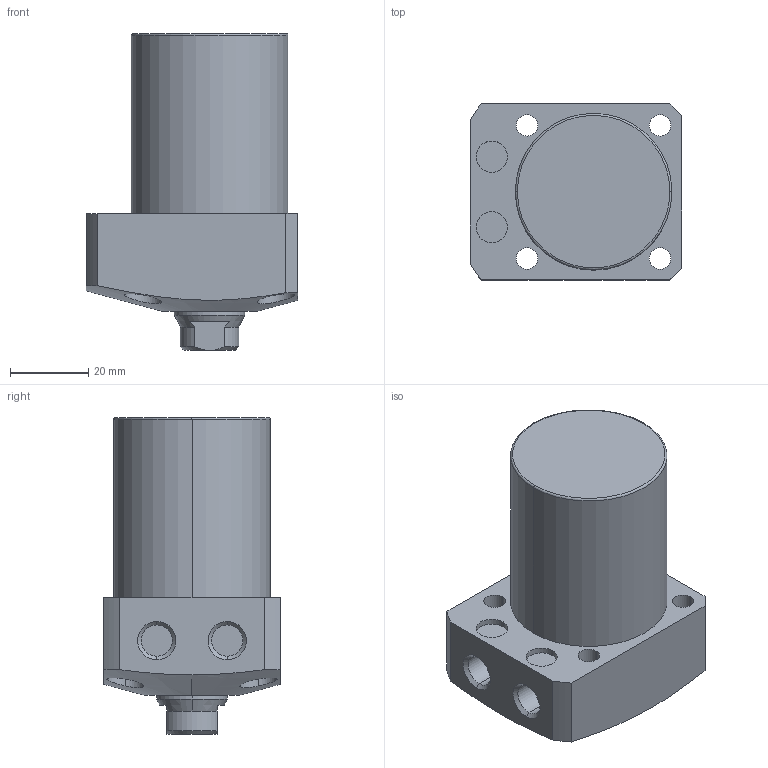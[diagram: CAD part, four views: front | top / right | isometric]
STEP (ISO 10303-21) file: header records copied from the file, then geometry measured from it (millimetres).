
FILE_DESCRIPTION (( 'STEP AP203' ), '1' );
FILE_NAME ('CLL-0400-CA-35.STEP', '2017-05-09T05:31:52', ( '' ), ( '' ), 'SwSTEP 2.0', 'SolidWorks 2015', '' );
FILE_SCHEMA (( 'CONFIG_CONTROL_DESIGN' ));
Length unit declared in the file: millimetre
Products named in the file (1): CLL-0400-CA-35
Bounding box: 54 x 45 x 81 mm (x, y, z)
Volume: 109251.4 mm3; surface area: 17679.8 mm2
Topology: 1 solids, 1 shells, 74 faces, 170 edges, 107 vertices
Faces by surface type: cylinder 35, plane 22, cone 15, torus 2
Entity records: 2512 total; most frequent: CARTESIAN_POINT 725, DIRECTION 374, ORIENTED_EDGE 336, EDGE_CURVE 168, AXIS2_PLACEMENT_3D 155, VERTEX_POINT 107, EDGE_LOOP 93, CIRCLE 80
